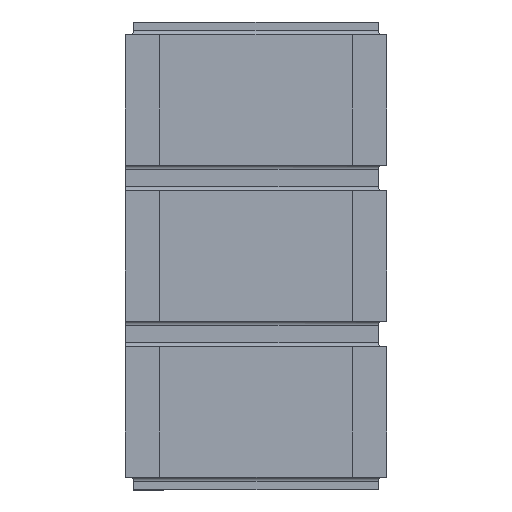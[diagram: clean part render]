
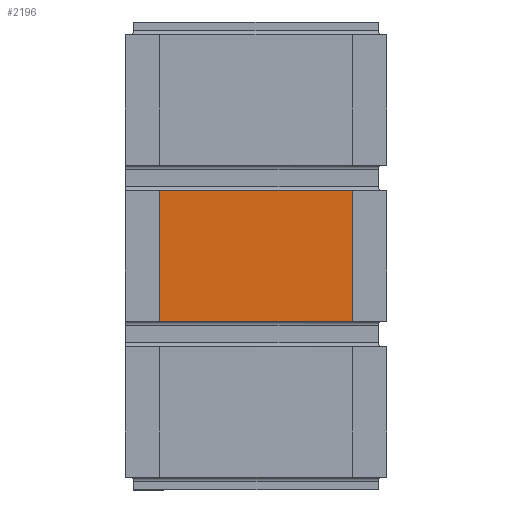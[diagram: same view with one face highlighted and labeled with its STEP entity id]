
A CAD part, top view. The second image highlights one B-rep face of the part: STEP entity #2196.
In plain terms, the highlighted planar face has unit normal (0, 0, 1).
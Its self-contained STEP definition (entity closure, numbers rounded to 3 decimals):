
#65=PLANE('',#2360);
#174=FACE_OUTER_BOUND('',#299,.T.);
#299=EDGE_LOOP('',(#1631,#1632,#1633,#1634));
#438=LINE('',#3200,#718);
#447=LINE('',#3221,#727);
#455=LINE('',#3246,#735);
#458=LINE('',#3251,#738);
#718=VECTOR('',#2584,10.);
#727=VECTOR('',#2607,10.);
#735=VECTOR('',#2631,10.);
#738=VECTOR('',#2636,10.);
#1006=VERTEX_POINT('',#3197);
#1007=VERTEX_POINT('',#3199);
#1012=VERTEX_POINT('',#3219);
#1021=VERTEX_POINT('',#3244);
#1232=EDGE_CURVE('',#1006,#1007,#438,.T.);
#1243=EDGE_CURVE('',#1012,#1006,#447,.T.);
#1255=EDGE_CURVE('',#1021,#1012,#455,.T.);
#1258=EDGE_CURVE('',#1021,#1007,#458,.T.);
#1631=ORIENTED_EDGE('',*,*,#1255,.F.);
#1632=ORIENTED_EDGE('',*,*,#1258,.T.);
#1633=ORIENTED_EDGE('',*,*,#1232,.F.);
#1634=ORIENTED_EDGE('',*,*,#1243,.F.);
#2196=ADVANCED_FACE('',(#174),#65,.T.);
#2360=AXIS2_PLACEMENT_3D('',#3250,#2634,#2635);
#2584=DIRECTION('',(-1.,0.,0.));
#2607=DIRECTION('',(0.,-1.,0.));
#2631=DIRECTION('',(1.,0.,0.));
#2634=DIRECTION('center_axis',(0.,0.,1.));
#2635=DIRECTION('ref_axis',(1.,0.,0.));
#2636=DIRECTION('',(0.,-1.,0.));
#3197=CARTESIAN_POINT('',(3.055,1.975,0.495));
#3199=CARTESIAN_POINT('',(0.005,1.975,0.495));
#3200=CARTESIAN_POINT('',(3.055,1.975,0.495));
#3219=CARTESIAN_POINT('',(3.055,3.5,0.495));
#3221=CARTESIAN_POINT('',(3.055,3.5,0.495));
#3244=CARTESIAN_POINT('',(0.005,3.5,0.495));
#3246=CARTESIAN_POINT('',(0.005,3.5,0.495));
#3250=CARTESIAN_POINT('Origin',(1.53,1.975,0.495));
#3251=CARTESIAN_POINT('',(0.005,3.5,0.495));
